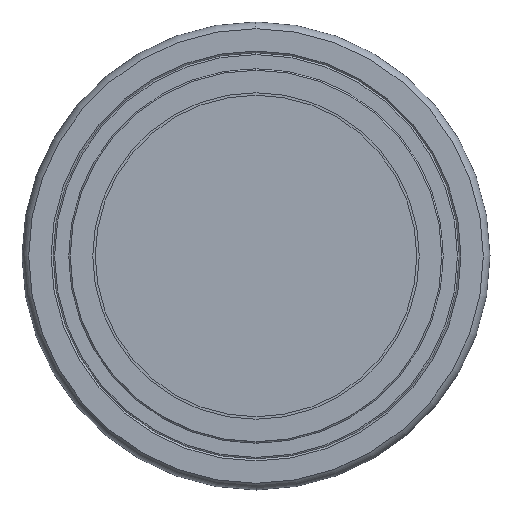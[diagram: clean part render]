
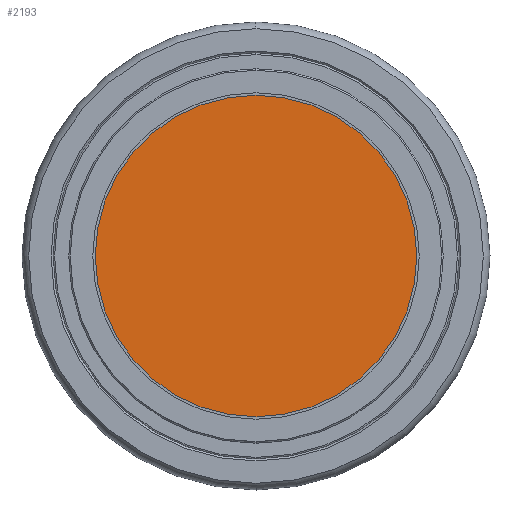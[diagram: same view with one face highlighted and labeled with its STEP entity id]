
A CAD part, left-side view. The second image highlights one B-rep face of the part: STEP entity #2193.
In plain terms, the highlighted planar face has unit normal (-1, 0, 0).
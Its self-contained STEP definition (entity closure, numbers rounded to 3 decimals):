
#899=CARTESIAN_POINT('',(-5.35,0.,-22.5));
#900=VERTEX_POINT('',#899);
#909=CARTESIAN_POINT('',(-5.35,0.,22.5));
#910=VERTEX_POINT('',#909);
#911=CARTESIAN_POINT('',(-5.35,0.,0.));
#912=DIRECTION('',(-1.0,0.0,0.0));
#913=DIRECTION('',(0.0,0.0,-1.0));
#914=AXIS2_PLACEMENT_3D('',#911,#912,#913);
#915=CIRCLE('',#914,22.5);
#916=EDGE_CURVE('',#910,#900,#915,.T.);
#2178=CARTESIAN_POINT('',(-5.35,0.,2.205));
#2179=DIRECTION('',(-1.0,0.0,0.0));
#2180=DIRECTION('',(0.0,0.0,1.0));
#2181=AXIS2_PLACEMENT_3D('',#2178,#2179,#2180);
#2182=PLANE('',#2181);
#2183=ORIENTED_EDGE('',*,*,#916,.T.);
#2184=CARTESIAN_POINT('',(-5.35,0.,0.));
#2185=DIRECTION('',(-1.0,0.0,0.0));
#2186=DIRECTION('',(0.0,0.0,-1.0));
#2187=AXIS2_PLACEMENT_3D('',#2184,#2185,#2186);
#2188=CIRCLE('',#2187,22.5);
#2189=EDGE_CURVE('',#900,#910,#2188,.T.);
#2190=ORIENTED_EDGE('',*,*,#2189,.T.);
#2191=EDGE_LOOP('',(#2183,#2190));
#2192=FACE_OUTER_BOUND('',#2191,.T.);
#2193=ADVANCED_FACE('',(#2192),#2182,.T.);
